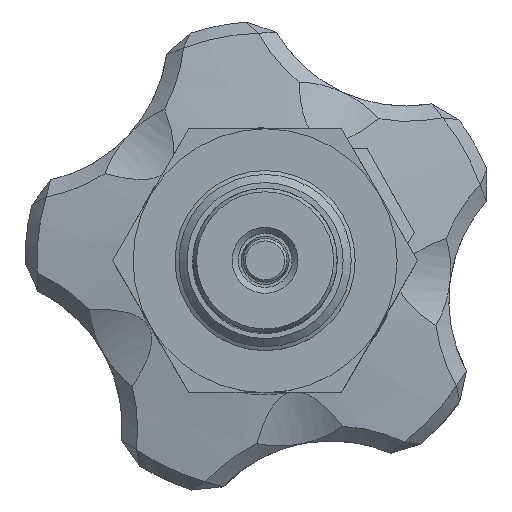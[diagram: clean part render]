
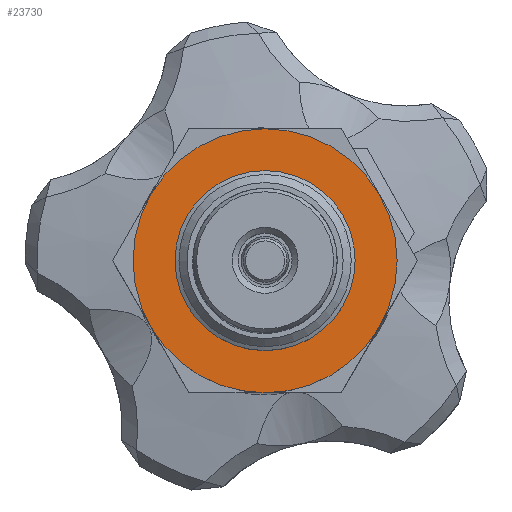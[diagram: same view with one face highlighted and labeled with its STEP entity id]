
A CAD part, top view. The second image highlights one B-rep face of the part: STEP entity #23730.
In plain terms, the highlighted planar face has unit normal (0, 0, 1).
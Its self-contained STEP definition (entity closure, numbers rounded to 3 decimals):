
#1765 = DIRECTION ( 'NONE',  ( 1., 0., 0. ) ) ;
#2827 = CARTESIAN_POINT ( 'NONE',  ( 6.5, 0., 6. ) ) ;
#3393 = DIRECTION ( 'NONE',  ( 0., 0., 1. ) ) ;
#6182 = DIRECTION ( 'NONE',  ( 1., 0., 0. ) ) ;
#6511 = PLANE ( 'NONE',  #12502 ) ;
#7200 = DIRECTION ( 'NONE',  ( 0., 0., 1. ) ) ;
#7994 = ORIENTED_EDGE ( 'NONE', *, *, #28256, .F. ) ;
#9135 = CARTESIAN_POINT ( 'NONE',  ( 0., 0., 6. ) ) ;
#9151 = EDGE_LOOP ( 'NONE', ( #31461 ) ) ;
#9732 = EDGE_CURVE ( 'NONE', #10963, #10963, #14004, .T. ) ;
#10963 = VERTEX_POINT ( 'NONE', #16214 ) ;
#11607 = AXIS2_PLACEMENT_3D ( 'NONE', #28526, #3393, #6182 ) ;
#12086 = DIRECTION ( 'NONE',  ( 0., 0., 1. ) ) ;
#12502 = AXIS2_PLACEMENT_3D ( 'NONE', #9135, #12086, #1765 ) ;
#12533 = EDGE_LOOP ( 'NONE', ( #7994 ) ) ;
#12597 = DIRECTION ( 'NONE',  ( 1., 0., 0. ) ) ;
#12814 = VERTEX_POINT ( 'NONE', #2827 ) ;
#14004 = CIRCLE ( 'NONE', #28183, 11. ) ;
#16214 = CARTESIAN_POINT ( 'NONE',  ( 11., 0., 6. ) ) ;
#23730 = ADVANCED_FACE ( 'NONE', ( #24747, #32146 ), #6511, .T. ) ;
#24747 = FACE_OUTER_BOUND ( 'NONE', #9151, .T. ) ;
#25781 = CIRCLE ( 'NONE', #11607, 6.5 ) ;
#27577 = CARTESIAN_POINT ( 'NONE',  ( 0., 0., 6. ) ) ;
#28183 = AXIS2_PLACEMENT_3D ( 'NONE', #27577, #7200, #12597 ) ;
#28256 = EDGE_CURVE ( 'NONE', #12814, #12814, #25781, .T. ) ;
#28526 = CARTESIAN_POINT ( 'NONE',  ( 0., 0., 6. ) ) ;
#31461 = ORIENTED_EDGE ( 'NONE', *, *, #9732, .T. ) ;
#32146 = FACE_BOUND ( 'NONE', #12533, .T. ) ;
